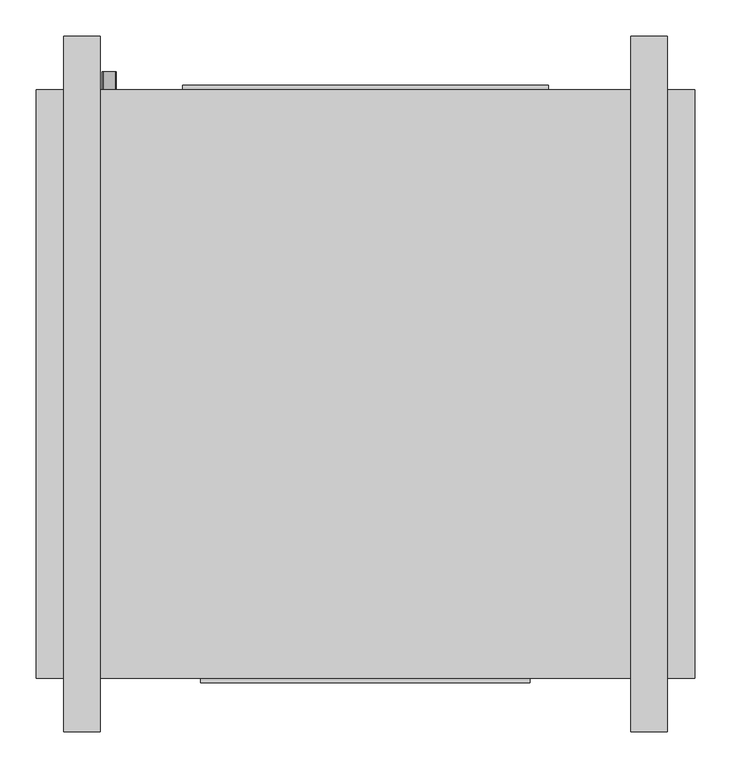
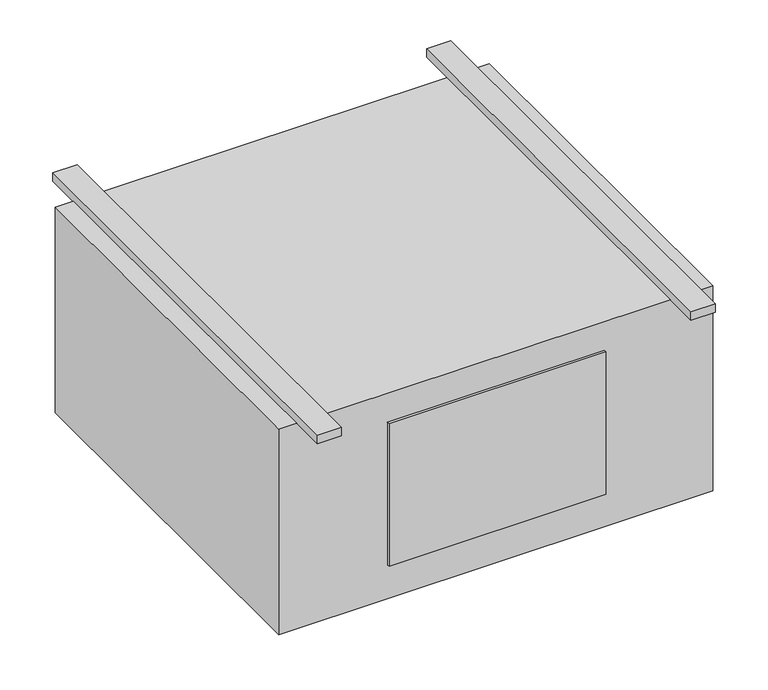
"""IFC4 building model written with IfcOpenShell, lengths in millimetres: proxy geometry, Exposed_High_Capacity_Horizontal_Cabinet_Fan_Coil_Unit_-_42DFA_-_CARRIER_-_4-Pipe_LH_2022 : Size 08 - 277v/60Hz/1Ph - 6/2 Coil."""

from ifc_helpers import new_model, si_unit, point, frame, frame_2d, origin, origin_with_axes, place, context, project, spatial, polyline, circle_curve, trimmed, segment, composite_curve, outline, extrude, source, transform, mapped, element, save


def mechanical_equipment_e15ea110(model_context):
    return source(origin(), model_context, "Body", "SweptSolid", [
        extrude(outline(composite_curve([segment(trimmed(circle_curve(frame_2d((-406.4, -203.2)), 9.525), [point((-406.4, -212.725))], [point((-406.4, -193.675))], False, "CARTESIAN"), True, "CONTINUOUS"), segment(trimmed(circle_curve(frame_2d((-406.4, -203.2)), 9.525), [point((-406.4, -193.675))], [point((-406.4, -212.725))], False, "CARTESIAN"), True, "CONTINUOUS")], self_intersect=False)), frame((0.0, 169.8625, 0.0), z_axis=(0.0, 1.0, 0.0), x_axis=(0.0, 0.0, 1.0)), (0.0, 0.0, 1.0), 25.4),
        extrude(outline(composite_curve([segment(trimmed(circle_curve(frame_2d((-330.2, -203.2)), 7.9375), [point((-330.2, -211.1375))], [point((-330.2, -195.2625))], False, "CARTESIAN"), True, "CONTINUOUS"), segment(trimmed(circle_curve(frame_2d((-330.2, -203.2)), 7.9375), [point((-330.2, -195.2625))], [point((-330.2, -211.1375))], False, "CARTESIAN"), True, "CONTINUOUS")], self_intersect=False)), frame((0.0, 169.8625, 0.0), z_axis=(0.0, 1.0, 0.0), x_axis=(0.0, 0.0, 1.0)), (0.0, 0.0, 1.0), 25.4),
        extrude(outline(composite_curve([segment(trimmed(circle_curve(frame_2d((-254.0, -203.2)), 7.9375), [point((-254.0, -211.1375))], [point((-254.0, -195.2625))], False, "CARTESIAN"), True, "CONTINUOUS"), segment(trimmed(circle_curve(frame_2d((-254.0, -203.2)), 7.9375), [point((-254.0, -195.2625))], [point((-254.0, -211.1375))], False, "CARTESIAN"), True, "CONTINUOUS")], self_intersect=False)), frame((0.0, 169.8625, 0.0), z_axis=(0.0, 1.0, 0.0), x_axis=(0.0, 0.0, 1.0)), (0.0, 0.0, 1.0), 25.4),
        extrude(outline(composite_curve([segment(trimmed(circle_curve(frame_2d((-177.8, -203.2)), 7.9375), [point((-177.8, -211.1375))], [point((-177.8, -195.2625))], False, "CARTESIAN"), True, "CONTINUOUS"), segment(trimmed(circle_curve(frame_2d((-177.8, -203.2)), 7.9375), [point((-177.8, -195.2625))], [point((-177.8, -211.1375))], False, "CARTESIAN"), True, "CONTINUOUS")], self_intersect=False)), frame((0.0, 169.8625, 0.0), z_axis=(0.0, 1.0, 0.0), x_axis=(0.0, 0.0, 1.0)), (0.0, 0.0, 1.0), 25.4),
        extrude(outline(composite_curve([segment(trimmed(circle_curve(frame_2d((-101.6, -203.2)), 7.9375), [point((-101.6, -211.1375))], [point((-101.6, -195.2625))], False, "CARTESIAN"), True, "CONTINUOUS"), segment(trimmed(circle_curve(frame_2d((-101.6, -203.2)), 7.9375), [point((-101.6, -195.2625))], [point((-101.6, -211.1375))], False, "CARTESIAN"), True, "CONTINUOUS")], self_intersect=False)), frame((0.0, 169.8625, 0.0), z_axis=(0.0, 1.0, 0.0), x_axis=(0.0, 0.0, 1.0)), (0.0, 0.0, 1.0), 25.4),
        extrude(outline(polyline([(609.6, 169.8625), (609.6, -646.1125), (-304.8, -646.1125), (-304.8, 169.8625), (609.6, 169.8625)])), frame((0.0, 0.0, -457.2), z_axis=(0.0, 0.0, 1.0), x_axis=(1.0, 0.0, 0.0)), (0.0, 0.0, 1.0), 457.2),
        extrude(outline(polyline([(-101.6, 176.2125), (406.4, 176.2125), (406.4, 169.8625), (-101.6, 169.8625), (-101.6, 176.2125)])), frame((0.0, 0.0, -381.0), z_axis=(0.0, 0.0, 1.0), x_axis=(1.0, 0.0, 0.0)), (0.0, 0.0, 1.0), 355.6),
        extrude(outline(polyline([(-215.9, 244.475), (-215.9, -720.725), (-266.7, -720.725), (-266.7, 244.475), (-215.9, 244.475)])), origin_with_axes(), (0.0, 0.0, 1.0), 19.05),
        extrude(outline(polyline([(571.5, 244.475), (571.5, -720.725), (520.7, -720.725), (520.7, 244.475), (571.5, 244.475)])), origin_with_axes(), (0.0, 0.0, 1.0), 19.05),
        extrude(outline(polyline([(381.0, -652.4625), (-76.2, -652.4625), (-76.2, -646.1125), (381.0, -646.1125), (381.0, -652.4625)])), frame((0.0, 0.0, -381.0), z_axis=(0.0, 0.0, 1.0), x_axis=(1.0, 0.0, 0.0)), (0.0, 0.0, 1.0), 317.5),
    ])


if __name__ == "__main__":
    model = new_model("IFC4")
    model_context = context("Model", 3, world=origin())
    ifc_project = project(units=[si_unit("LENGTHUNIT", "METRE", prefix="MILLI")], contexts=[model_context])
    site = spatial("IfcSite", under=ifc_project)
    building = spatial("IfcBuilding", under=site)
    placement = place(None, origin())
    mechanical_equipment_shape = mechanical_equipment_e15ea110(model_context)
    element("IfcBuildingElementProxy", 1, Name="Exposed_High_Capacity_Horizontal_Cabinet_Fan_Coil_Unit_-_42DFA_-_CARRIER_-_4-Pipe_LH_2022 : Size 08 - 277v/60Hz/1Ph - 6/2 Coil", ObjectType="Exposed_High_Capacity_Horizontal_Cabinet_Fan_Coil_Unit_-_42DFA_-_CARRIER_-_4-Pipe_LH_2022 : Size 08 - 277v/60Hz/1Ph - 6/2 Coil", at=placement, inside=building, context=model_context, shape_type="MappedRepresentation", body=[
        mapped(mechanical_equipment_shape, transform((0.0, 0.0, 0.0), x_axis=(1.0, 0.0, 0.0), y_axis=(0.0, 1.0, 0.0), z_axis=(0.0, 0.0, 1.0))),
    ])
    save(model, "model.ifc")
